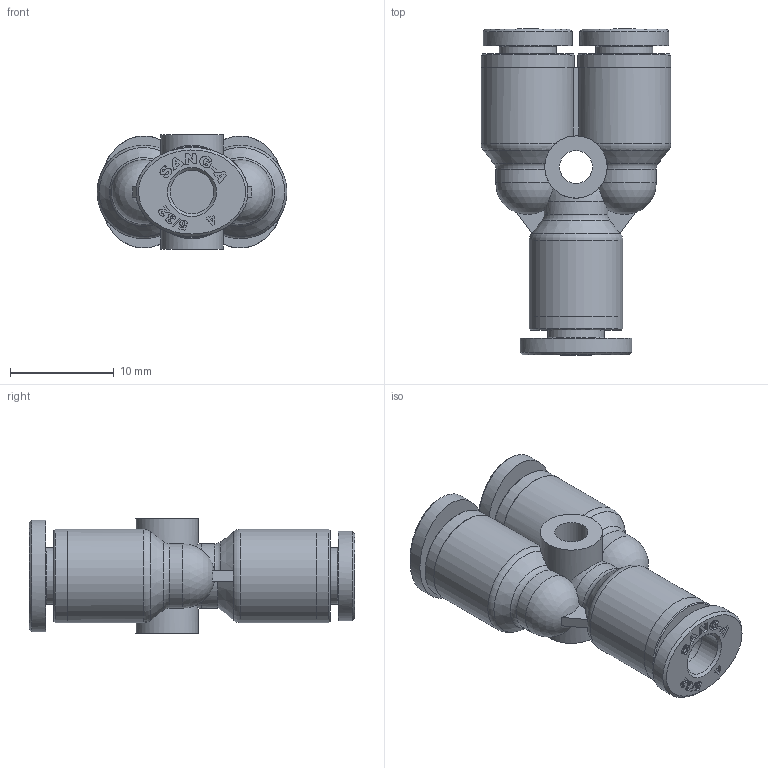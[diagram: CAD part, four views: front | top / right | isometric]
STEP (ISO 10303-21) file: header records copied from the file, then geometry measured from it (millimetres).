
FILE_DESCRIPTION((''),'2;1');
FILE_NAME('C:\Users\user0117\Desktop\김진일\홈페이지\5_32\Internet\G-FITTING INCH (STEP)\GPY 5_32.stp','2020-02-21T14:35:08',('user0117'),(''),'Autodesk Inventor 2013','Autodesk Inventor 2013','');
FILE_SCHEMA(('AUTOMOTIVE_DESIGN { 1 0 10303 214 1 1 1 1 }'));
Length unit declared in the file: millimetre
Products named in the file (5): GPY 5_32; GPY BODY-04(PLASTIC); G-COLLAR 5-32L; COLLAR G04L; SLEEVE G04
Assembly tree (6 placements, depth 3):
  GPY 5_32
    GPY BODY-04(PLASTIC)
    G-COLLAR 5-32L  x3
      COLLAR G04L
      SLEEVE G04
Bounding box: 18.3 x 31.4 x 11 mm (x, y, z)
Volume: 2204.6 mm3; surface area: 2902.1 mm2
Topology: 7 solids, 7 shells, 524 faces, 1385 edges, 923 vertices
Faces by surface type: plane 300, bspline 177, cylinder 25, cone 12, torus 6, sphere 4
Full cylindrical faces by diameter (mm): 3.2 x1, 4.2 x9, 5.5 x3, 6 x2, 9 x4
Entity records: 6976 total; most frequent: CARTESIAN_POINT 2344, ORIENTED_EDGE 1020, DIRECTION 715, EDGE_CURVE 510, VERTEX_POINT 349, VECTOR 299, LINE 299, EDGE_LOOP 243
